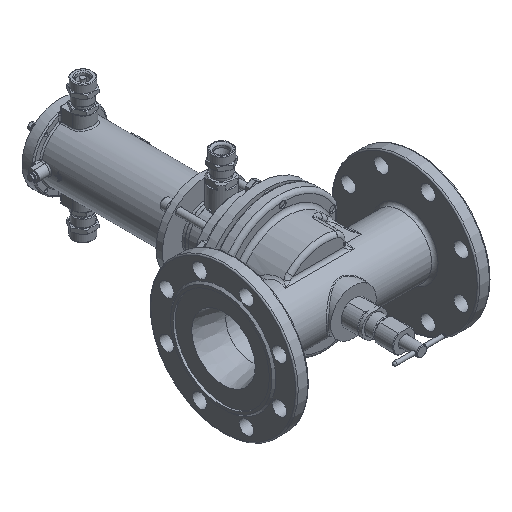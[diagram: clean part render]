
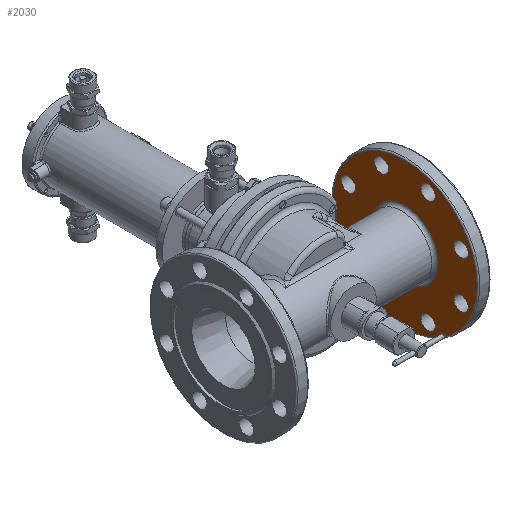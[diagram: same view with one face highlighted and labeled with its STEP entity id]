
A CAD part, isometric view. The second image highlights one B-rep face of the part: STEP entity #2030.
In plain terms, the highlighted planar face has unit normal (-1, 0, 0).
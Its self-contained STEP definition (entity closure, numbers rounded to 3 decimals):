
#2030=ADVANCED_FACE('',(#22707,#22709,#22711,#22713,#22715,#22717,#22719,#22721,
#22723,#22725),#22727,.T.);
#22707=FACE_BOUND('',#22708,.T.);
#22708=EDGE_LOOP('',(#35530));
#22709=FACE_BOUND('',#22710,.T.);
#22710=EDGE_LOOP('',(#35531));
#22711=FACE_BOUND('',#22712,.T.);
#22712=EDGE_LOOP('',(#35532));
#22713=FACE_BOUND('',#22714,.T.);
#22714=EDGE_LOOP('',(#35533));
#22715=FACE_BOUND('',#22716,.T.);
#22716=EDGE_LOOP('',(#35534));
#22717=FACE_BOUND('',#22718,.T.);
#22718=EDGE_LOOP('',(#35535));
#22719=FACE_BOUND('',#22720,.T.);
#22720=EDGE_LOOP('',(#35536));
#22721=FACE_BOUND('',#22722,.T.);
#22722=EDGE_LOOP('',(#35537));
#22723=FACE_BOUND('',#22724,.T.);
#22724=EDGE_LOOP('',(#35538));
#22725=FACE_OUTER_BOUND('',#22726,.T.);
#22726=EDGE_LOOP('',(#35539));
#22727=PLANE('',#22728);
#22728=AXIS2_PLACEMENT_3D('',#22729,#22730,#22731);
#22729=CARTESIAN_POINT('',(132.,0.,0.));
#22730=DIRECTION('',(-1.,0.,0.));
#22731=DIRECTION('',(0.,1.,0.));
#35530=ORIENTED_EDGE('',*,*,#44176,.F.);
#35531=ORIENTED_EDGE('',*,*,#44218,.T.);
#35532=ORIENTED_EDGE('',*,*,#44219,.T.);
#35533=ORIENTED_EDGE('',*,*,#44220,.T.);
#35534=ORIENTED_EDGE('',*,*,#44221,.T.);
#35535=ORIENTED_EDGE('',*,*,#44222,.T.);
#35536=ORIENTED_EDGE('',*,*,#44223,.T.);
#35537=ORIENTED_EDGE('',*,*,#44224,.T.);
#35538=ORIENTED_EDGE('',*,*,#44225,.T.);
#35539=ORIENTED_EDGE('',*,*,#44226,.T.);
#44176=EDGE_CURVE('',#53155,#53155,#53157,.T.);
#44218=EDGE_CURVE('',#53220,#53220,#53221,.T.);
#44219=EDGE_CURVE('',#53222,#53222,#53223,.T.);
#44220=EDGE_CURVE('',#53224,#53224,#53225,.T.);
#44221=EDGE_CURVE('',#53226,#53226,#53227,.T.);
#44222=EDGE_CURVE('',#53228,#53228,#53229,.T.);
#44223=EDGE_CURVE('',#53230,#53230,#53231,.T.);
#44224=EDGE_CURVE('',#53232,#53232,#53233,.T.);
#44225=EDGE_CURVE('',#53234,#53234,#53235,.T.);
#44226=EDGE_CURVE('',#53236,#53236,#53237,.T.);
#53155=VERTEX_POINT('',#86078);
#53157=CIRCLE('',#86083,52.);
#53220=VERTEX_POINT('',#86476);
#53221=CIRCLE('',#86477,11.);
#53222=VERTEX_POINT('',#86481);
#53223=CIRCLE('',#86482,11.);
#53224=VERTEX_POINT('',#86486);
#53225=CIRCLE('',#86487,11.);
#53226=VERTEX_POINT('',#86491);
#53227=CIRCLE('',#86492,11.);
#53228=VERTEX_POINT('',#86496);
#53229=CIRCLE('',#86497,11.);
#53230=VERTEX_POINT('',#86501);
#53231=CIRCLE('',#86502,11.);
#53232=VERTEX_POINT('',#86506);
#53233=CIRCLE('',#86507,11.);
#53234=VERTEX_POINT('',#86511);
#53235=CIRCLE('',#86512,11.);
#53236=VERTEX_POINT('',#86516);
#53237=CIRCLE('',#86517,113.);
#86078=CARTESIAN_POINT('',(132.,52.,0.));
#86083=AXIS2_PLACEMENT_3D('',#86084,#86085,#86086);
#86084=CARTESIAN_POINT('',(132.,0.,0.));
#86085=DIRECTION('',(-1.,0.,0.));
#86086=DIRECTION('',(0.,1.,0.));
#86476=CARTESIAN_POINT('',(132.,-36.355,-76.769));
#86477=AXIS2_PLACEMENT_3D('',#86478,#86479,#86480);
#86478=CARTESIAN_POINT('',(132.,-36.355,-87.769));
#86479=DIRECTION('',(1.,-0.,0.));
#86480=DIRECTION('',(0.,0.,1.));
#86481=CARTESIAN_POINT('',(132.,-36.355,98.769));
#86482=AXIS2_PLACEMENT_3D('',#86483,#86484,#86485);
#86483=CARTESIAN_POINT('',(132.,-36.355,87.769));
#86484=DIRECTION('',(1.,-0.,0.));
#86485=DIRECTION('',(0.,0.,1.));
#86486=CARTESIAN_POINT('',(132.,-87.769,47.355));
#86487=AXIS2_PLACEMENT_3D('',#86488,#86489,#86490);
#86488=CARTESIAN_POINT('',(132.,-87.769,36.355));
#86489=DIRECTION('',(1.,-0.,0.));
#86490=DIRECTION('',(0.,0.,1.));
#86491=CARTESIAN_POINT('',(132.,-87.769,-25.355));
#86492=AXIS2_PLACEMENT_3D('',#86493,#86494,#86495);
#86493=CARTESIAN_POINT('',(132.,-87.769,-36.355));
#86494=DIRECTION('',(1.,-0.,0.));
#86495=DIRECTION('',(0.,0.,1.));
#86496=CARTESIAN_POINT('',(132.,36.355,-76.769));
#86497=AXIS2_PLACEMENT_3D('',#86498,#86499,#86500);
#86498=CARTESIAN_POINT('',(132.,36.355,-87.769));
#86499=DIRECTION('',(1.,-0.,0.));
#86500=DIRECTION('',(0.,0.,1.));
#86501=CARTESIAN_POINT('',(132.,36.355,98.769));
#86502=AXIS2_PLACEMENT_3D('',#86503,#86504,#86505);
#86503=CARTESIAN_POINT('',(132.,36.355,87.769));
#86504=DIRECTION('',(1.,-0.,0.));
#86505=DIRECTION('',(0.,0.,1.));
#86506=CARTESIAN_POINT('',(132.,87.769,47.355));
#86507=AXIS2_PLACEMENT_3D('',#86508,#86509,#86510);
#86508=CARTESIAN_POINT('',(132.,87.769,36.355));
#86509=DIRECTION('',(1.,-0.,0.));
#86510=DIRECTION('',(0.,0.,1.));
#86511=CARTESIAN_POINT('',(132.,87.769,-25.355));
#86512=AXIS2_PLACEMENT_3D('',#86513,#86514,#86515);
#86513=CARTESIAN_POINT('',(132.,87.769,-36.355));
#86514=DIRECTION('',(1.,-0.,0.));
#86515=DIRECTION('',(0.,0.,1.));
#86516=CARTESIAN_POINT('',(132.,113.,0.));
#86517=AXIS2_PLACEMENT_3D('',#86518,#86519,#86520);
#86518=CARTESIAN_POINT('',(132.,0.,0.));
#86519=DIRECTION('',(-1.,0.,0.));
#86520=DIRECTION('',(0.,1.,0.));
